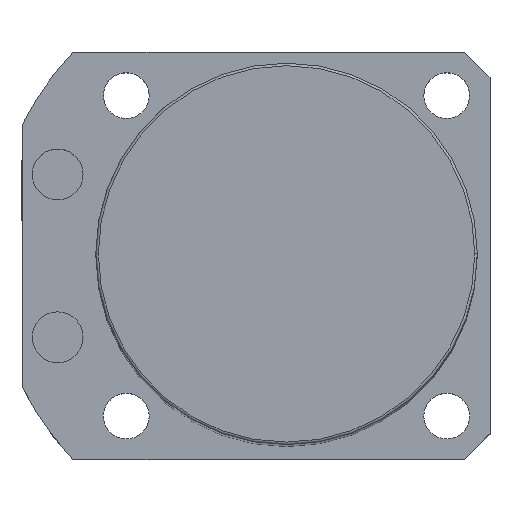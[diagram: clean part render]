
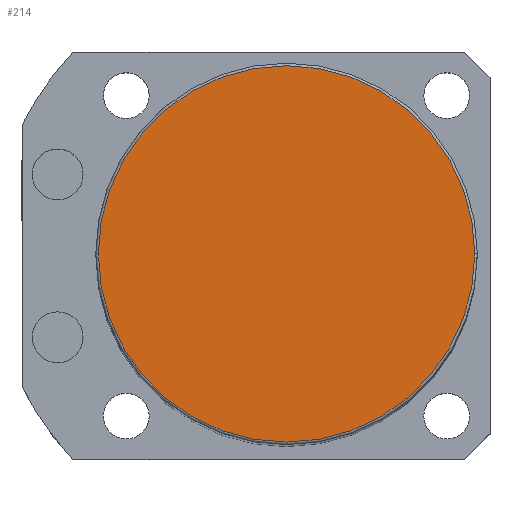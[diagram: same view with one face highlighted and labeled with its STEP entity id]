
A CAD part, top view. The second image highlights one B-rep face of the part: STEP entity #214.
In plain terms, the highlighted planar face has unit normal (0, 0, 1).
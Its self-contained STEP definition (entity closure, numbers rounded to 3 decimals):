
#63 = DIRECTION ( 'NONE',  ( 1., 0., 0. ) ) ;
#69 = AXIS2_PLACEMENT_3D ( 'NONE', #1322, #1537, #96 ) ;
#77 = DIRECTION ( 'NONE',  ( 0., 0., 1. ) ) ;
#96 = DIRECTION ( 'NONE',  ( 1., 0., 0. ) ) ;
#150 = ORIENTED_EDGE ( 'NONE', *, *, #217, .T. ) ;
#214 = ADVANCED_FACE ( 'NONE', ( #1551 ), #1953, .T. ) ;
#217 = EDGE_CURVE ( 'NONE', #1913, #2565, #2381, .T. ) ;
#302 = CARTESIAN_POINT ( 'NONE',  ( 0., 0., 235.5 ) ) ;
#474 = CARTESIAN_POINT ( 'NONE',  ( -37., 0., 235.5 ) ) ;
#599 = EDGE_CURVE ( 'NONE', #2565, #1913, #907, .T. ) ;
#720 = DIRECTION ( 'NONE',  ( 0., 0., 1. ) ) ;
#799 = AXIS2_PLACEMENT_3D ( 'NONE', #302, #720, #1120 ) ;
#907 = CIRCLE ( 'NONE', #1102, 37. ) ;
#1102 = AXIS2_PLACEMENT_3D ( 'NONE', #1926, #77, #63 ) ;
#1120 = DIRECTION ( 'NONE',  ( 1., 0., 0. ) ) ;
#1322 = CARTESIAN_POINT ( 'NONE',  ( 0., 0., 235.5 ) ) ;
#1537 = DIRECTION ( 'NONE',  ( 0., 0., 1. ) ) ;
#1551 = FACE_OUTER_BOUND ( 'NONE', #1879, .T. ) ;
#1698 = ORIENTED_EDGE ( 'NONE', *, *, #599, .T. ) ;
#1879 = EDGE_LOOP ( 'NONE', ( #1698, #150 ) ) ;
#1913 = VERTEX_POINT ( 'NONE', #474 ) ;
#1926 = CARTESIAN_POINT ( 'NONE',  ( 0., 0., 235.5 ) ) ;
#1953 = PLANE ( 'NONE',  #69 ) ;
#2214 = CARTESIAN_POINT ( 'NONE',  ( 37., 0., 235.5 ) ) ;
#2381 = CIRCLE ( 'NONE', #799, 37. ) ;
#2565 = VERTEX_POINT ( 'NONE', #2214 ) ;
